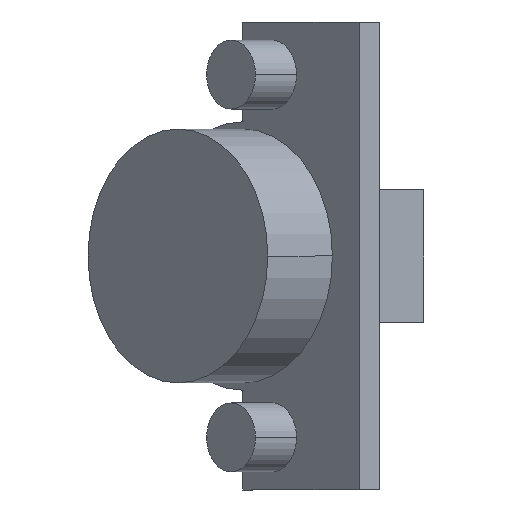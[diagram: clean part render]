
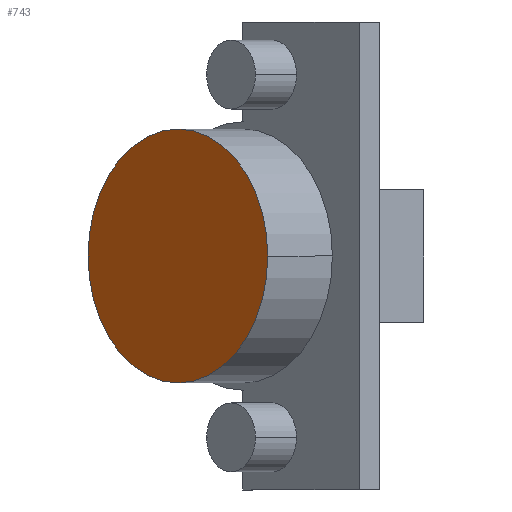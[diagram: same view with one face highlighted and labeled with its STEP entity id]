
A CAD part, front view. The second image highlights one B-rep face of the part: STEP entity #743.
In plain terms, the highlighted planar face has unit normal (-0.707, -0.707, 0).
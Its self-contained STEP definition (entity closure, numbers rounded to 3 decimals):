
#21 = CIRCLE ( 'NONE', #956, 17.5 ) ;
#58 = CIRCLE ( 'NONE', #890, 17.5 ) ;
#196 = FACE_OUTER_BOUND ( 'NONE', #1673, .T. ) ;
#279 = DIRECTION ( 'NONE',  ( -0.707, -0.707, 0. ) ) ;
#487 = ORIENTED_EDGE ( 'NONE', *, *, #845, .T. ) ;
#488 = ORIENTED_EDGE ( 'NONE', *, *, #823, .T. ) ;
#645 = CARTESIAN_POINT ( 'NONE',  ( -18.734, 3.465, 0. ) ) ;
#698 = CARTESIAN_POINT ( 'NONE',  ( 6.015, -21.284, 0. ) ) ;
#743 = ADVANCED_FACE ( 'NONE', ( #196 ), #1252, .T. ) ;
#823 = EDGE_CURVE ( 'NONE', #1023, #1069, #58, .T. ) ;
#845 = EDGE_CURVE ( 'NONE', #1069, #1023, #21, .T. ) ;
#890 = AXIS2_PLACEMENT_3D ( 'NONE', #1447, #1452, #1453 ) ;
#919 = AXIS2_PLACEMENT_3D ( 'NONE', #1251, #1254, #1255 ) ;
#956 = AXIS2_PLACEMENT_3D ( 'NONE', #1553, #279, #988 ) ;
#988 = DIRECTION ( 'NONE',  ( 0.707, -0.707, 0. ) ) ;
#1023 = VERTEX_POINT ( 'NONE', #645 ) ;
#1069 = VERTEX_POINT ( 'NONE', #698 ) ;
#1251 = CARTESIAN_POINT ( 'NONE',  ( -6.36, -8.91, 0. ) ) ;
#1252 = PLANE ( 'NONE',  #919 ) ;
#1254 = DIRECTION ( 'NONE',  ( -0.707, -0.707, 0. ) ) ;
#1255 = DIRECTION ( 'NONE',  ( 0.707, -0.707, 0. ) ) ;
#1447 = CARTESIAN_POINT ( 'NONE',  ( -6.36, -8.91, 0. ) ) ;
#1452 = DIRECTION ( 'NONE',  ( -0.707, -0.707, 0. ) ) ;
#1453 = DIRECTION ( 'NONE',  ( 0.707, -0.707, 0. ) ) ;
#1553 = CARTESIAN_POINT ( 'NONE',  ( -6.36, -8.91, 0. ) ) ;
#1673 = EDGE_LOOP ( 'NONE', ( #488, #487 ) ) ;
